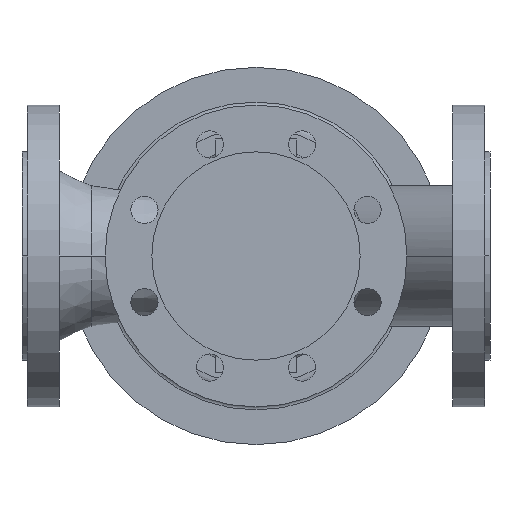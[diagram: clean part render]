
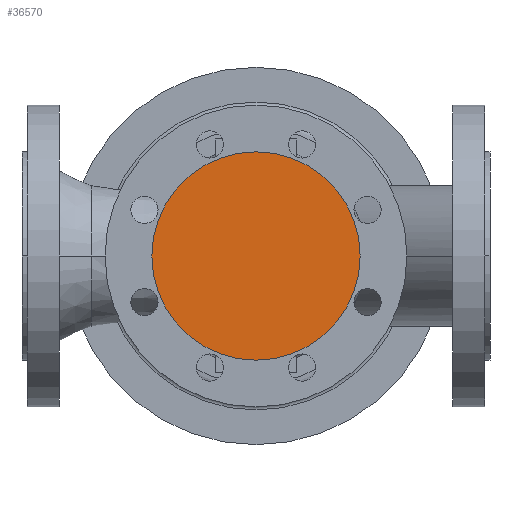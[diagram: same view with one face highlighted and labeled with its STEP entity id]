
A CAD part, front view. The second image highlights one B-rep face of the part: STEP entity #36570.
In plain terms, the highlighted planar face has unit normal (0, -1, 0).
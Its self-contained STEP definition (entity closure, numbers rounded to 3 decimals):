
#4600=CARTESIAN_POINT('',(86.,-130.,0.));
#4610=VERTEX_POINT('',#4600);
#4770=CARTESIAN_POINT('',(224.,-130.,0.));
#4780=VERTEX_POINT('',#4770);
#4810=CARTESIAN_POINT('',(155.,-130.,0.));
#4820=DIRECTION('',(0.,1.,0.));
#4830=DIRECTION('',(1.,0.,0.));
#4840=AXIS2_PLACEMENT_3D('',#4810,#4820,#4830);
#4850=CIRCLE('',#4840,69.);
#4860=EDGE_CURVE('',#4610,#4780,#4850,.T.);
#36470=CARTESIAN_POINT('',(189.5,-130.,0.));
#36480=DIRECTION('',(0.,-1.,0.));
#36490=DIRECTION('',(-1.,0.,0.));
#36500=AXIS2_PLACEMENT_3D('',#36470,#36480,#36490);
#36510=PLANE('',#36500);
#36520=EDGE_CURVE('',#4780,#4610,#4850,.T.);
#36530=ORIENTED_EDGE('',*,*,#36520,.F.);
#36540=ORIENTED_EDGE('',*,*,#4860,.F.);
#36550=EDGE_LOOP('',(#36540,#36530));
#36560=FACE_OUTER_BOUND('',#36550,.T.);
#36570=ADVANCED_FACE('',(#36560),#36510,.T.);
